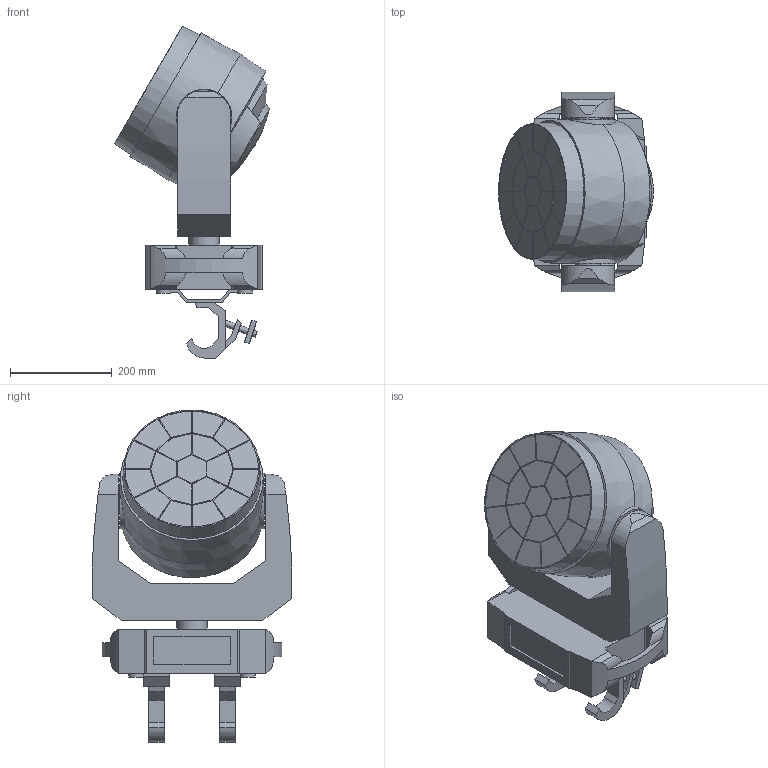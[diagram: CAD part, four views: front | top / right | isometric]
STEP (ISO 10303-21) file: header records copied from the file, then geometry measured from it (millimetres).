
FILE_DESCRIPTION(/* description */ ('Unknown'),/* implementation_level */ '2;1');
FILE_NAME(/* name */ '3D_Robin Spiider_lite ',/* time_stamp */ '2018-03-01T06:33:14+01:00',/* author */ ('Unknown'),/* organization */ ('Unknown'),/* preprocessor_version */ 'ST-DEVELOPER v16.7',/* originating_system */ 'DEX',/* authorisation */ $);
FILE_SCHEMA (('AUTOMOTIVE_DESIGN {1 0 10303 214 3 1 1}'));
Length unit declared in the file: millimetre
Products named in the file (7): 3D_Robin Spiider_lite ; Base; Arm; Head; Omega_SlimClamp; Omega+SlimClamp; Clamp Doughty Slimline QT
Assembly tree (7 placements, depth 3):
  3D_Robin Spiider_lite 
    Base
    Arm
    Head
    Omega_SlimClamp  x2
      Omega+SlimClamp
      Clamp Doughty Slimline QT
Bounding box: 305.05 x 393.51 x 653.99 mm (x, y, z)
Volume: 24813887.4 mm3; surface area: 966886.2 mm2
Topology: 7 solids, 7 shells, 329 faces, 840 edges, 561 vertices
Faces by surface type: plane 254, cylinder 59, cone 15, sphere 1
Full cylindrical faces by diameter (mm): 9.5 x1, 10.2 x3, 11 x4, 12 x8, 13 x2, 29.415 x4, 45.109 x1, 48 x3, 59.6 x1
Entity records: 8491 total; most frequent: CARTESIAN_POINT 1745, ORIENTED_EDGE 1320, DIRECTION 1312, EDGE_CURVE 660, LINE 486, VECTOR 486, VERTEX_POINT 452, AXIS2_PLACEMENT_3D 413
